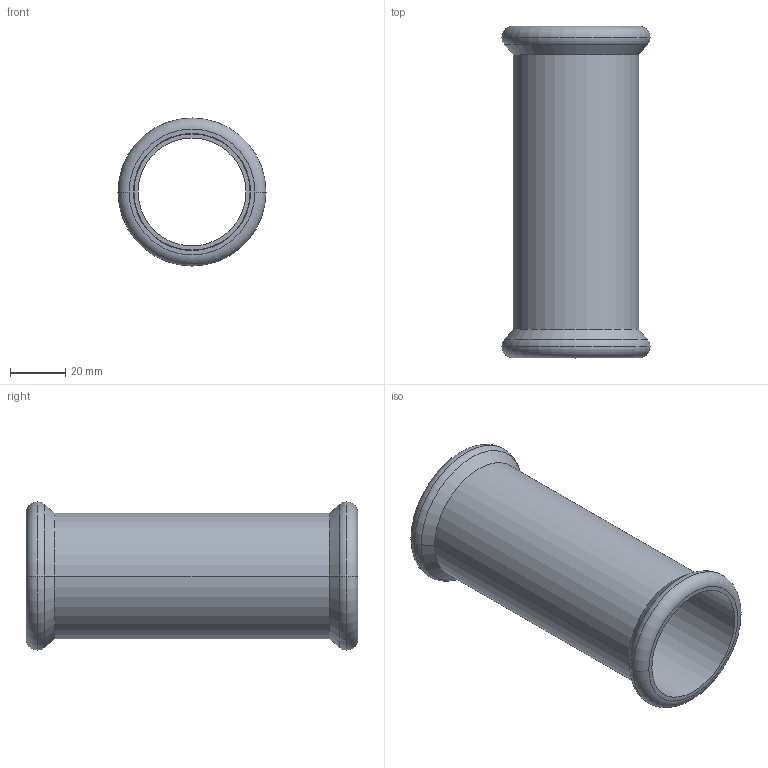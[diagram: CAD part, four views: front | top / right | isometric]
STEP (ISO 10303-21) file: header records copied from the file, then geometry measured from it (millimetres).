
FILE_DESCRIPTION(('CoCreate Modeling STEP Export'),'2;1');
FILE_NAME('C1403 42x42.stp','2014-11-07T14:06:44',(''),(''),'CoCreate Modeling STEP processor for AP214 (Solid Model)','CoCreate Modeling 17.00A 17-Jun-2010 (C) Parametric Technology GmbH','');
FILE_SCHEMA(('AUTOMOTIVE_DESIGN { 1 0 10303 214 1 1 1 1 }'));
Length unit declared in the file: millimetre
Products named in the file (2): C1403_42x42
Assembly tree (1 placements, depth 2):
  C1403_42x42
    C1403_42x42
Bounding box: 53.55 x 120 x 53.55 mm (x, y, z)
Volume: 46571.1 mm3; surface area: 35067.6 mm2
Topology: 1 solids, 1 shells, 30 faces, 62 edges, 38 vertices
Faces by surface type: cylinder 12, torus 8, plane 6, cone 4
Entity records: 691 total; most frequent: ORIENTED_EDGE 124, DIRECTION 104, CARTESIAN_POINT 98, EDGE_CURVE 62, AXIS2_PLACEMENT_3D 44, VERTEX_POINT 38, EDGE_LOOP 36, FACE_OUTER_BOUND 30
